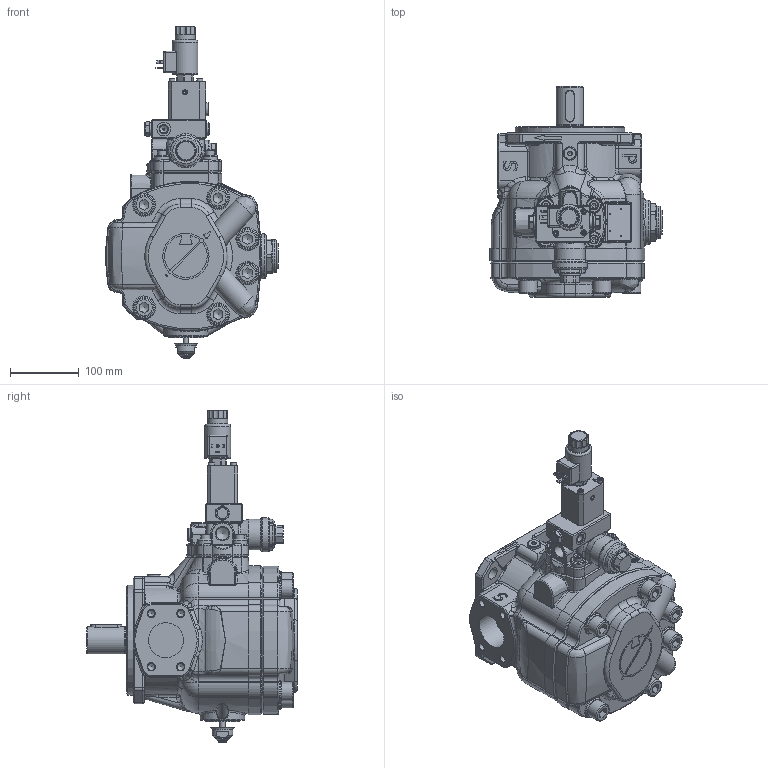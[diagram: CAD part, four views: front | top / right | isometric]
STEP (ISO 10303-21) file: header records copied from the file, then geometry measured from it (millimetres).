
FILE_DESCRIPTION(/* description */ (''),/* implementation_level */ '2;1');
FILE_NAME(/* name */ 'W:\Tecnico\Archivio\Berarma\Dimensioni Pompe\3D Export\Montaggio 3D semplificato\PLP-PHP 3\PHP 3 PCLS005.stp',/* time_stamp */ '2018-10-10T08:42:00+02:00',/* author */ ('marcop'),/* organization */ (''),/* preprocessor_version */ 'ST-DEVELOPER v17',/* originating_system */ 'Autodesk Inventor 2018',/* authorisation */ '');
FILE_SCHEMA (('AUTOMOTIVE_DESIGN { 1 0 10303 214 3 1 1 }'));
Length unit declared in the file: millimetre
Products named in the file (1): PLP-PHP 3_Shrinkwrap_1
Bounding box: 251.18 x 308 x 484.65 mm (x, y, z)
Volume: 7121913.2 mm3; surface area: 574272.8 mm2
Topology: 2 solids, 2 shells, 2319 faces, 5929 edges, 3662 vertices
Faces by surface type: plane 808, cylinder 543, bspline 462, torus 229, cone 229, sphere 48
Full cylindrical faces by diameter (mm): 1.6 x3, 1.7 x4, 3 x3, 3.15 x1, 3.242 x1, 4 x3, 4.3 x1, 6.5 x3, 7.2 x1, 8 x2, 8.376 x4, 8.5 x4, 9.5 x1, 10.106 x4, 11.049 x1, 11.1 x1, 11.445 x4, 12 x4, 13 x4, 14 x1, 15.5 x2, 16.789 x1, 17.805 x1, 17.84 x1, 18 x4, 18.631 x1, 18.999 x2, 19 x8, 19.2 x1, 20 x7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
Entity records: 88539 total; most frequent: CARTESIAN_POINT 32847, ORIENTED_EDGE 11676, DIRECTION 10511, EDGE_CURVE 5838, AXIS2_PLACEMENT_3D 4088, VERTEX_POINT 3662, EDGE_LOOP 2476, LINE 2335
